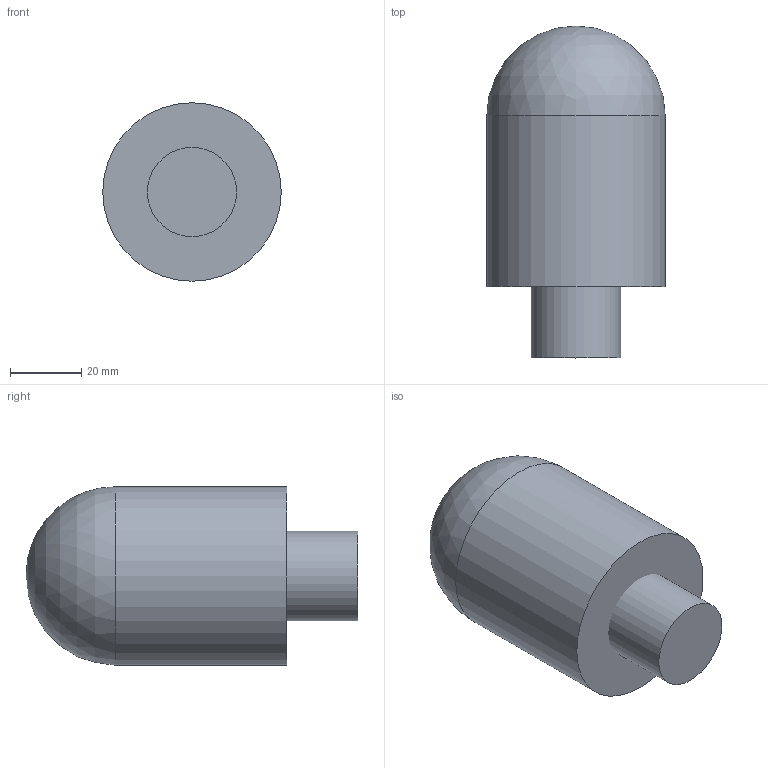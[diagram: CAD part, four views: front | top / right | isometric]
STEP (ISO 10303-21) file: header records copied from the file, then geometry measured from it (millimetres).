
FILE_DESCRIPTION(/* description */ (''),/* implementation_level */ '2;1');
FILE_NAME(/* name */ 'C:/Users/daiwa/Desktop/キノコブラシ.step',/* time_stamp */ '2022-01-31T22:59:38+09:00',/* author */ (''),/* organization */ (''),/* preprocessor_version */ 'ST-DEVELOPER v18.1',/* originating_system */ 'Autodesk Translation Framework v10.13.0.1454',/* authorisation */ '');
FILE_SCHEMA (('AUTOMOTIVE_DESIGN { 1 0 10303 214 3 1 1 }'));
Length unit declared in the file: millimetre
Products named in the file (1): キノコブラシ　棒
Bounding box: 50 x 93 x 50 mm (x, y, z)
Volume: 164041.6 mm3; surface area: 20185.5 mm2
Topology: 2 solids, 2 shells, 9 faces, 17 edges, 10 vertices
Faces by surface type: cone 4, cylinder 2, plane 2, sphere 1
Full cylindrical faces by diameter (mm): 25 x1, 50 x1
Entity records: 264 total; most frequent: DIRECTION 44, CARTESIAN_POINT 35, ORIENTED_EDGE 30, AXIS2_PLACEMENT_3D 19, EDGE_CURVE 15, VERTEX_POINT 10, FACE_OUTER_BOUND 9, EDGE_LOOP 9
